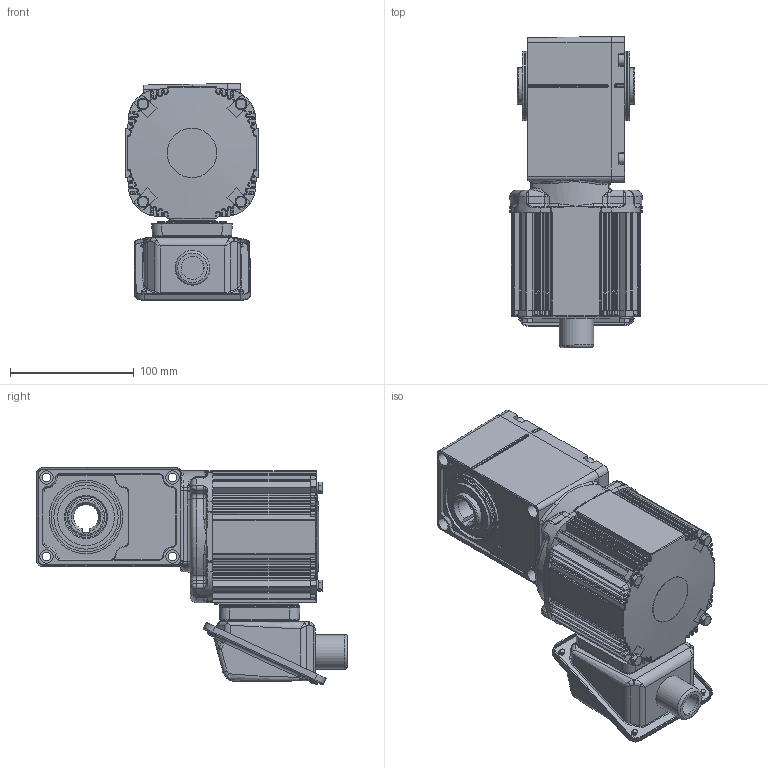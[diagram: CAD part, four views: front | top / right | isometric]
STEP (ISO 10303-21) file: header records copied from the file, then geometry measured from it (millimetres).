
FILE_DESCRIPTION( ( 'Unknown' ), '1' );
FILE_NAME( 'W:/gm/3D-WEB/GV-SSY/完成品/パーツ/完成品/完成品(GV-SSY_0.1+0.2kW_ﾌﾞﾚｰｷ無_20).stp', 'Unknown', ( 'Unknown' ), ( 'Unknown' ), 'PSStep 11.0', 'Unknown', ' ' );
FILE_SCHEMA( ( 'AUTOMOTIVE_DESIGN { 1 0 10303 214 1 1 1 1 }' ) );
Length unit declared in the file: millimetre
Products named in the file (7): P165087_牒埳偷(20)
Bounding box: 107 x 251.57 x 175.41 mm (x, y, z)
Volume: 1368947.8 mm3; surface area: 285799.2 mm2
Topology: 7 solids, 16 shells, 2038 faces, 5119 edges, 3142 vertices
Faces by surface type: plane 705, cylinder 676, bspline 291, torus 234, cone 119, sphere 13
Full cylindrical faces by diameter (mm): 3.3 x4, 3.8 x4, 4 x2, 4.134 x4, 4.5 x8, 4.6 x4, 5 x8, 5.5 x8, 5.8 x4, 6 x4, 6.9 x4, 7 x4, 8.5 x4, 9.7 x4, 11 x8, 15 x1, 16 x1, 18.631 x2, 22 x1, 25 x1, 28 x1, 29.8 x2, 30 x4, 35 x1, 36.2 x1, 40 x1, 42 x1, 46 x2, 50 x1, 52 x2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
Entity records: 126764 total; most frequent: CARTESIAN_POINT 63918, DIRECTION 9834, ORIENTED_EDGE 9634, EDGE_CURVE 4817, AXIS2_PLACEMENT_3D 4022, VERTEX_POINT 3065, EDGE_LOOP 2316, FACE_OUTER_BOUND 2163
